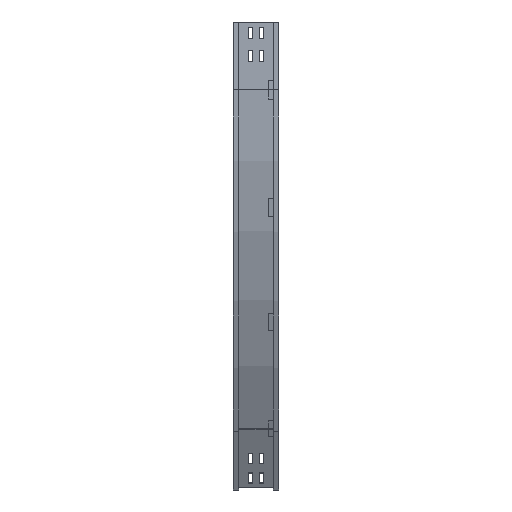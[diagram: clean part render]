
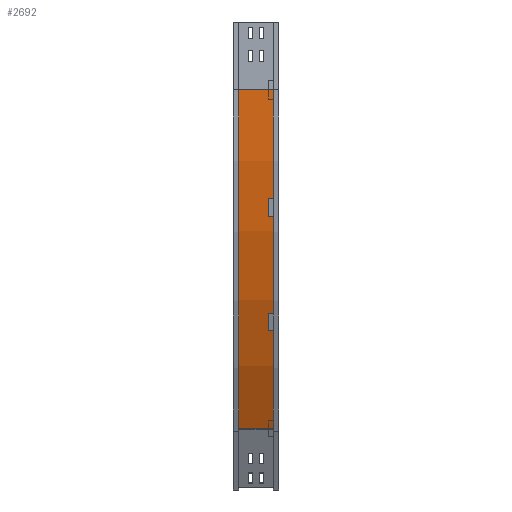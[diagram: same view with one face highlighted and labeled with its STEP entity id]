
A CAD part, left-side view. The second image highlights one B-rep face of the part: STEP entity #2692.
In plain terms, the highlighted cylindrical face has radius 1500 mm (diameter 3000 mm), a partial arc.
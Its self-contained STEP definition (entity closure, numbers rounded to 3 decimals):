
#84 = DIRECTION ( 'NONE',  ( 0., 0., -1. ) ) ;
#198 = CARTESIAN_POINT ( 'NONE',  ( 1509., 88., -150. ) ) ;
#224 = ORIENTED_EDGE ( 'NONE', *, *, #3993, .T. ) ;
#269 = CARTESIAN_POINT ( 'NONE',  ( 209.962, 12., -900. ) ) ;
#304 = AXIS2_PLACEMENT_3D ( 'NONE', #3224, #379, #84 ) ;
#362 = AXIS2_PLACEMENT_3D ( 'NONE', #1271, #4476, #2755 ) ;
#379 = DIRECTION ( 'NONE',  ( 0., -1., 0. ) ) ;
#677 = VERTEX_POINT ( 'NONE', #1838 ) ;
#1184 = DIRECTION ( 'NONE',  ( 0., -1., 0. ) ) ;
#1186 = VECTOR ( 'NONE', #1389, 1000. ) ;
#1271 = CARTESIAN_POINT ( 'NONE',  ( 1509., 12., -150. ) ) ;
#1367 = LINE ( 'NONE', #2069, #1186 ) ;
#1389 = DIRECTION ( 'NONE',  ( 0., -1., 0. ) ) ;
#1651 = DIRECTION ( 'NONE',  ( 0., -1., 0. ) ) ;
#1662 = ORIENTED_EDGE ( 'NONE', *, *, #2572, .F. ) ;
#1726 = EDGE_CURVE ( 'NONE', #2490, #3280, #2857, .T. ) ;
#1838 = CARTESIAN_POINT ( 'NONE',  ( 209.962, 88., -900. ) ) ;
#1956 = DIRECTION ( 'NONE',  ( -1., 0., 0. ) ) ;
#2007 = CIRCLE ( 'NONE', #2897, 1500. ) ;
#2069 = CARTESIAN_POINT ( 'NONE',  ( 9., 12., -150. ) ) ;
#2114 = FACE_OUTER_BOUND ( 'NONE', #3110, .T. ) ;
#2490 = VERTEX_POINT ( 'NONE', #3426 ) ;
#2504 = EDGE_CURVE ( 'NONE', #677, #3280, #2763, .T. ) ;
#2572 = EDGE_CURVE ( 'NONE', #2982, #2490, #1367, .T. ) ;
#2692 = ADVANCED_FACE ( 'NONE', ( #2114 ), #3513, .T. ) ;
#2755 = DIRECTION ( 'NONE',  ( -1., 0., 0. ) ) ;
#2763 = LINE ( 'NONE', #269, #4237 ) ;
#2857 = CIRCLE ( 'NONE', #362, 1500. ) ;
#2897 = AXIS2_PLACEMENT_3D ( 'NONE', #198, #1184, #1956 ) ;
#2982 = VERTEX_POINT ( 'NONE', #3464 ) ;
#3110 = EDGE_LOOP ( 'NONE', ( #3612, #1662, #224, #4009 ) ) ;
#3224 = CARTESIAN_POINT ( 'NONE',  ( 1509., 0., -150. ) ) ;
#3280 = VERTEX_POINT ( 'NONE', #3571 ) ;
#3426 = CARTESIAN_POINT ( 'NONE',  ( 9., 12., -150. ) ) ;
#3464 = CARTESIAN_POINT ( 'NONE',  ( 9., 88., -150. ) ) ;
#3513 = CYLINDRICAL_SURFACE ( 'NONE', #304, 1500. ) ;
#3571 = CARTESIAN_POINT ( 'NONE',  ( 209.962, 12., -900. ) ) ;
#3612 = ORIENTED_EDGE ( 'NONE', *, *, #1726, .F. ) ;
#3993 = EDGE_CURVE ( 'NONE', #2982, #677, #2007, .T. ) ;
#4009 = ORIENTED_EDGE ( 'NONE', *, *, #2504, .T. ) ;
#4237 = VECTOR ( 'NONE', #1651, 1000. ) ;
#4476 = DIRECTION ( 'NONE',  ( 0., -1., 0. ) ) ;
